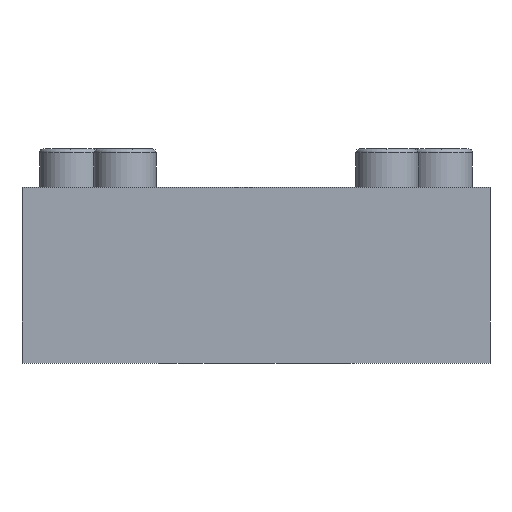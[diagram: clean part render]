
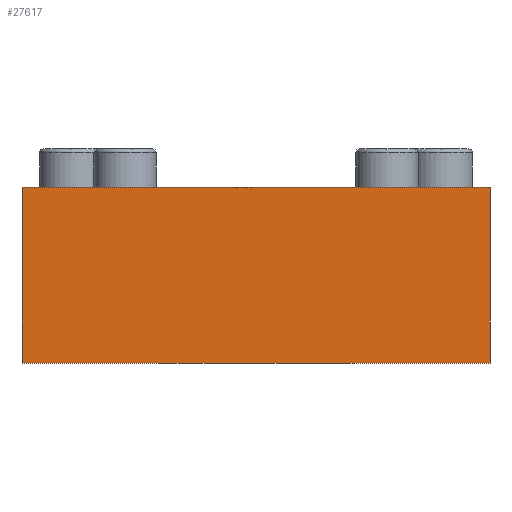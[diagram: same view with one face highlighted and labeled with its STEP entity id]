
A CAD part, front view. The second image highlights one B-rep face of the part: STEP entity #27617.
In plain terms, the highlighted planar face has unit normal (0, -1, 0).
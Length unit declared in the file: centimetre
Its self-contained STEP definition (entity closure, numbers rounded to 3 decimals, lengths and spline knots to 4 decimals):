
#1307=LINE('',#33796,#4107);
#4099=LINE('',#46537,#6899);
#4104=LINE('',#46546,#6904);
#4105=LINE('',#46548,#6905);
#4107=VECTOR('',#28770,12.);
#6899=VECTOR('',#33750,4.506);
#6904=VECTOR('',#33759,4.506);
#6905=VECTOR('',#33762,12.);
#7874=PLANE('',#28733);
#9468=FACE_OUTER_BOUND('',#11061,.T.);
#11061=EDGE_LOOP('',(#24898,#24899,#24900,#24901));
#11149=VERTEX_POINT('',#33793);
#11150=VERTEX_POINT('',#33795);
#13656=VERTEX_POINT('',#46534);
#13659=VERTEX_POINT('',#46544);
#13671=EDGE_CURVE('',#11149,#11150,#1307,.T.);
#17403=EDGE_CURVE('',#13656,#11149,#4099,.T.);
#17408=EDGE_CURVE('',#13659,#11150,#4104,.T.);
#17409=EDGE_CURVE('',#13659,#13656,#4105,.T.);
#24898=ORIENTED_EDGE('',*,*,#17409,.F.);
#24899=ORIENTED_EDGE('',*,*,#17408,.T.);
#24900=ORIENTED_EDGE('',*,*,#13671,.F.);
#24901=ORIENTED_EDGE('',*,*,#17403,.F.);
#27617=ADVANCED_FACE('',(#9468),#7874,.T.);
#28733=AXIS2_PLACEMENT_3D('',#46547,#33760,#33761);
#28770=DIRECTION('',(1.,0.,0.));
#33750=DIRECTION('',(0.,0.,1.));
#33759=DIRECTION('',(0.,0.,1.));
#33760=DIRECTION('center_axis',(0.,-1.,0.));
#33761=DIRECTION('ref_axis',(1.,0.,0.));
#33762=DIRECTION('',(-1.,0.,0.));
#33793=CARTESIAN_POINT('',(-6.,-38.,4.506));
#33795=CARTESIAN_POINT('',(6.,-38.,4.506));
#33796=CARTESIAN_POINT('',(-6.,-38.,4.506));
#46534=CARTESIAN_POINT('',(-6.,-38.,0.));
#46537=CARTESIAN_POINT('',(-6.,-38.,0.));
#46544=CARTESIAN_POINT('',(6.,-38.,0.));
#46546=CARTESIAN_POINT('',(6.,-38.,0.));
#46547=CARTESIAN_POINT('Origin',(-6.,-38.,0.));
#46548=CARTESIAN_POINT('',(6.,-38.,0.));
